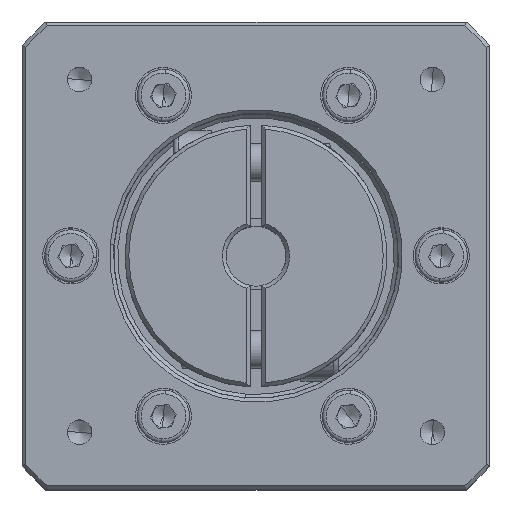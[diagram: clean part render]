
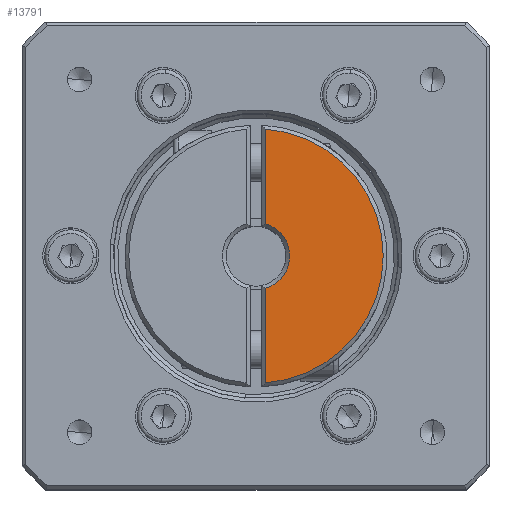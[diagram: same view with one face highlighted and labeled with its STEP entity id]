
A CAD part, top view. The second image highlights one B-rep face of the part: STEP entity #13791.
In plain terms, the highlighted planar face has unit normal (0, 0, 1).
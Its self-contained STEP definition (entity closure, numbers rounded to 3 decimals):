
#1244 = CARTESIAN_POINT ( 'NONE',  ( -25.688, 14.587, 185.002 ) ) ;
#5222 = CIRCLE ( 'NONE', #23824, 17. ) ;
#6872 = VERTEX_POINT ( 'NONE', #1244 ) ;
#9312 = VERTEX_POINT ( 'NONE', #105103 ) ;
#10111 = PLANE ( 'NONE',  #44646 ) ;
#13791 = ADVANCED_FACE ( 'NONE', ( #52898 ), #10111, .F. ) ;
#13804 = EDGE_LOOP ( 'NONE', ( #27128, #106729, #60485, #67432 ) ) ;
#15789 = DIRECTION ( 'NONE',  ( 0., -1., 0. ) ) ;
#18384 = EDGE_CURVE ( 'NONE', #41627, #9312, #107106, .T. ) ;
#23824 = AXIS2_PLACEMENT_3D ( 'NONE', #93016, #43259, #101349 ) ;
#27128 = ORIENTED_EDGE ( 'NONE', *, *, #65139, .F. ) ;
#28738 = CARTESIAN_POINT ( 'NONE',  ( -25.688, 5.941, 185.002 ) ) ;
#29768 = DIRECTION ( 'NONE',  ( 0., 0., 1. ) ) ;
#38311 = DIRECTION ( 'NONE',  ( 0., -1., 0. ) ) ;
#41627 = VERTEX_POINT ( 'NONE', #28738 ) ;
#41834 = LINE ( 'NONE', #66978, #63873 ) ;
#43259 = DIRECTION ( 'NONE',  ( 0., 0., -1. ) ) ;
#43506 = CARTESIAN_POINT ( 'NONE',  ( -26.938, -7.236, 185.002 ) ) ;
#44646 = AXIS2_PLACEMENT_3D ( 'NONE', #43506, #101571, #51827 ) ;
#47297 = EDGE_CURVE ( 'NONE', #93650, #6872, #41834, .T. ) ;
#51827 = DIRECTION ( 'NONE',  ( 0.997, -0.078, 0. ) ) ;
#52099 = EDGE_CURVE ( 'NONE', #41627, #6872, #107603, .T. ) ;
#52898 = FACE_OUTER_BOUND ( 'NONE', #13804, .T. ) ;
#57053 = AXIS2_PLACEMENT_3D ( 'NONE', #79565, #29768, #87943 ) ;
#60485 = ORIENTED_EDGE ( 'NONE', *, *, #52099, .F. ) ;
#62916 = VECTOR ( 'NONE', #38311, 1000. ) ;
#63873 = VECTOR ( 'NONE', #15789, 1000. ) ;
#65139 = EDGE_CURVE ( 'NONE', #93650, #9312, #5222, .T. ) ;
#66978 = CARTESIAN_POINT ( 'NONE',  ( -25.688, 27.218, 185.002 ) ) ;
#67432 = ORIENTED_EDGE ( 'NONE', *, *, #18384, .T. ) ;
#79565 = CARTESIAN_POINT ( 'NONE',  ( -26.938, 10.264, 185.002 ) ) ;
#87943 = DIRECTION ( 'NONE',  ( 0.078, 0.997, 0. ) ) ;
#88106 = CARTESIAN_POINT ( 'NONE',  ( -25.688, 5.941, 185.002 ) ) ;
#93016 = CARTESIAN_POINT ( 'NONE',  ( -26.938, 10.264, 185.002 ) ) ;
#93650 = VERTEX_POINT ( 'NONE', #100316 ) ;
#100316 = CARTESIAN_POINT ( 'NONE',  ( -25.688, 27.218, 185.002 ) ) ;
#101349 = DIRECTION ( 'NONE',  ( -0.078, -0.997, 0. ) ) ;
#101571 = DIRECTION ( 'NONE',  ( 0., 0., -1. ) ) ;
#105103 = CARTESIAN_POINT ( 'NONE',  ( -25.688, -6.69, 185.002 ) ) ;
#106729 = ORIENTED_EDGE ( 'NONE', *, *, #47297, .T. ) ;
#107106 = LINE ( 'NONE', #88106, #62916 ) ;
#107603 = CIRCLE ( 'NONE', #57053, 4.5 ) ;
